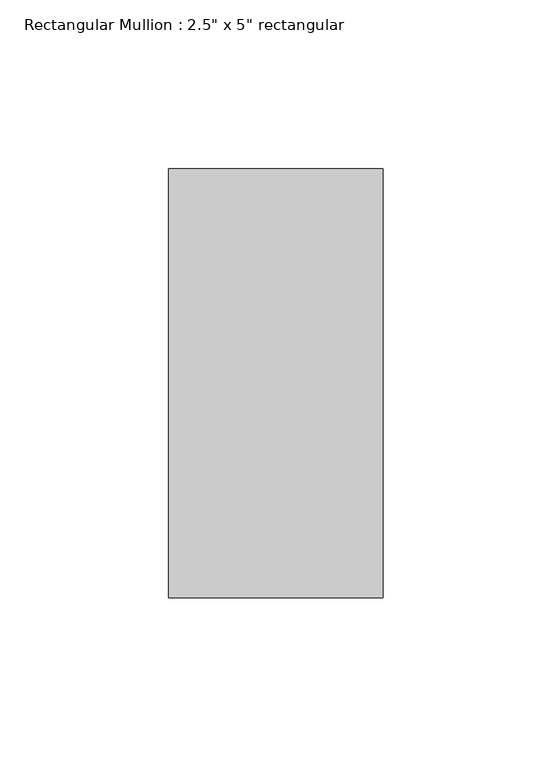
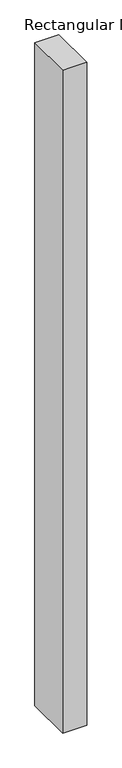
"""IFC4 building model written with IfcOpenShell, lengths in millimetres: member geometry."""

from ifc_helpers import new_model, si_unit, frame, origin, place, context, project, spatial, polyline, outline, extrude, source, transform, mapped, element, save


def member_d21742c5(model_context):
    return source(origin(), model_context, "Body", "SweptSolid", [
        extrude(outline(polyline([(31.75, 63.5), (31.75, -63.5), (-31.75, -63.5), (-31.75, 63.5), (31.75, 63.5)])), frame((0.0, 0.0, -1853.8672576), z_axis=(0.0, 0.0, 1.0), x_axis=(1.0, 0.0, 0.0)), (0.0, 0.0, 1.0), 1853.8672576),
    ])


if __name__ == "__main__":
    model = new_model("IFC4")
    model_context = context("Model", 3, world=origin())
    ifc_project = project(units=[si_unit("LENGTHUNIT", "METRE", prefix="MILLI")], contexts=[model_context])
    site = spatial("IfcSite", under=ifc_project)
    building = spatial("IfcBuilding", under=site)
    placement = place(None, origin())
    member_shape = member_d21742c5(model_context)
    element("IfcMember", 1, ObjectType="Rectangular Mullion : 2.5\" x 5\" rectangular", at=placement, inside=building, context=model_context, shape_type="MappedRepresentation", body=[
        mapped(member_shape, transform((0.0, 0.0, 0.0), x_axis=(1.0, 0.0, 0.0), y_axis=(0.0, 1.0, 0.0), z_axis=(0.0, 0.0, 1.0))),
    ])
    save(model, "model.ifc")
